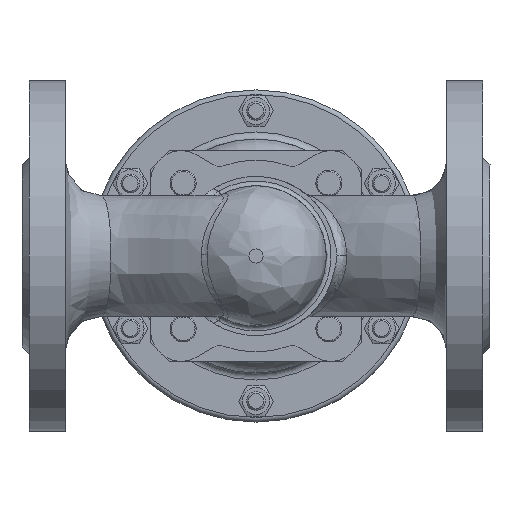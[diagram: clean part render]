
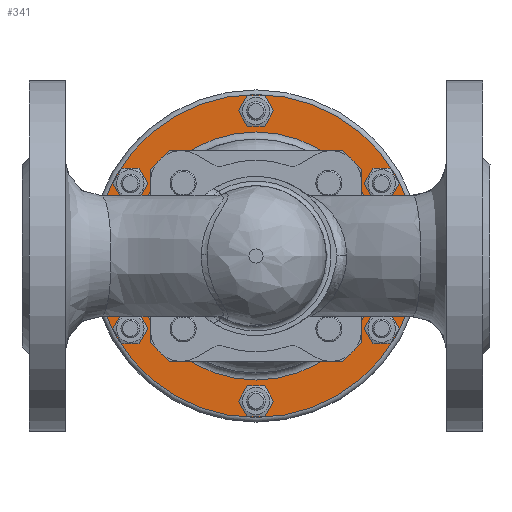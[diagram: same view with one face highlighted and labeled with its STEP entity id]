
A CAD part, front view. The second image highlights one B-rep face of the part: STEP entity #341.
In plain terms, the highlighted planar face has unit normal (0, -1, 0).
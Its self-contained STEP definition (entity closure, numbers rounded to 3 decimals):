
#341=ADVANCED_FACE('',(#11188,#11190,#11192,#11194,#11196,#11198,#11200,#11202),
#11204,.T.);
#11188=FACE_BOUND('',#11189,.T.);
#11189=EDGE_LOOP('',(#22740));
#11190=FACE_BOUND('',#11191,.T.);
#11191=EDGE_LOOP('',(#22741));
#11192=FACE_BOUND('',#11193,.T.);
#11193=EDGE_LOOP('',(#22742));
#11194=FACE_BOUND('',#11195,.T.);
#11195=EDGE_LOOP('',(#22743,#22744,#22745,#22746,#22747,#22748,#22749,#22750));
#11196=FACE_BOUND('',#11197,.T.);
#11197=EDGE_LOOP('',(#22751));
#11198=FACE_BOUND('',#11199,.T.);
#11199=EDGE_LOOP('',(#22752));
#11200=FACE_BOUND('',#11201,.T.);
#11201=EDGE_LOOP('',(#22753));
#11202=FACE_OUTER_BOUND('',#11203,.T.);
#11203=EDGE_LOOP('',(#22754));
#11204=PLANE('',#11205);
#11205=AXIS2_PLACEMENT_3D('',#11206,#11207,#11208);
#11206=CARTESIAN_POINT('',(100.,237.062,-75.));
#11207=DIRECTION('',(0.,-1.,0.));
#11208=DIRECTION('',(1.,0.,0.));
#22740=ORIENTED_EDGE('',*,*,#26839,.F.);
#22741=ORIENTED_EDGE('',*,*,#26840,.F.);
#22742=ORIENTED_EDGE('',*,*,#26841,.F.);
#22743=ORIENTED_EDGE('',*,*,#26842,.T.);
#22744=ORIENTED_EDGE('',*,*,#26843,.F.);
#22745=ORIENTED_EDGE('',*,*,#26844,.F.);
#22746=ORIENTED_EDGE('',*,*,#26845,.F.);
#22747=ORIENTED_EDGE('',*,*,#26846,.T.);
#22748=ORIENTED_EDGE('',*,*,#26847,.F.);
#22749=ORIENTED_EDGE('',*,*,#26848,.F.);
#22750=ORIENTED_EDGE('',*,*,#26849,.F.);
#22751=ORIENTED_EDGE('',*,*,#26850,.F.);
#22752=ORIENTED_EDGE('',*,*,#26851,.F.);
#22753=ORIENTED_EDGE('',*,*,#26852,.F.);
#22754=ORIENTED_EDGE('',*,*,#26833,.F.);
#26833=EDGE_CURVE('',#28653,#28653,#28655,.T.);
#26839=EDGE_CURVE('',#28664,#28664,#28665,.T.);
#26840=EDGE_CURVE('',#28666,#28666,#28667,.T.);
#26841=EDGE_CURVE('',#28668,#28668,#28669,.T.);
#26842=EDGE_CURVE('',#28670,#28671,#28672,.T.);
#26843=EDGE_CURVE('',#28673,#28671,#28674,.T.);
#26844=EDGE_CURVE('',#28675,#28673,#28676,.T.);
#26845=EDGE_CURVE('',#28677,#28675,#28678,.T.);
#26846=EDGE_CURVE('',#28677,#28679,#28680,.T.);
#26847=EDGE_CURVE('',#28681,#28679,#28682,.T.);
#26848=EDGE_CURVE('',#28683,#28681,#28684,.T.);
#26849=EDGE_CURVE('',#28670,#28683,#28685,.T.);
#26850=EDGE_CURVE('',#28686,#28686,#28687,.T.);
#26851=EDGE_CURVE('',#28688,#28688,#28689,.T.);
#26852=EDGE_CURVE('',#28690,#28690,#28691,.T.);
#28653=VERTEX_POINT('',#38046);
#28655=CIRCLE('',#38051,69.);
#28664=VERTEX_POINT('',#38077);
#28665=CIRCLE('',#38078,5.85);
#28666=VERTEX_POINT('',#38082);
#28667=CIRCLE('',#38083,5.85);
#28668=VERTEX_POINT('',#38087);
#28669=CIRCLE('',#38088,5.85);
#28670=VERTEX_POINT('',#38092);
#28671=VERTEX_POINT('',#38093);
#28672=CIRCLE('',#38094,53.);
#28673=VERTEX_POINT('',#38098);
#28674=LINE('',#38099,#38100);
#28675=VERTEX_POINT('',#38102);
#28676=CIRCLE('',#38103,3.5);
#28677=VERTEX_POINT('',#38107);
#28678=LINE('',#38108,#38109);
#28679=VERTEX_POINT('',#38111);
#28680=CIRCLE('',#38112,53.);
#28681=VERTEX_POINT('',#38116);
#28682=LINE('',#38117,#38118);
#28683=VERTEX_POINT('',#38120);
#28684=CIRCLE('',#38121,3.5);
#28685=LINE('',#38125,#38126);
#28686=VERTEX_POINT('',#38128);
#28687=CIRCLE('',#38129,5.85);
#28688=VERTEX_POINT('',#38133);
#28689=CIRCLE('',#38134,5.85);
#28690=VERTEX_POINT('',#38138);
#28691=CIRCLE('',#38139,5.85);
#38046=CARTESIAN_POINT('',(31.,237.062,-75.));
#38051=AXIS2_PLACEMENT_3D('',#38052,#38053,#38054);
#38052=CARTESIAN_POINT('',(100.,237.062,-75.));
#38053=DIRECTION('',(0.,1.,0.));
#38054=DIRECTION('',(1.,0.,0.));
#38077=CARTESIAN_POINT('',(49.231,237.062,-111.066));
#38078=AXIS2_PLACEMENT_3D('',#38079,#38080,#38081);
#38079=CARTESIAN_POINT('',(46.306,237.062,-106.));
#38080=DIRECTION('',(0.,-1.,0.));
#38081=DIRECTION('',(1.,0.,0.));
#38082=CARTESIAN_POINT('',(102.925,237.062,-18.066));
#38083=AXIS2_PLACEMENT_3D('',#38084,#38085,#38086);
#38084=CARTESIAN_POINT('',(100.,237.062,-13.));
#38085=DIRECTION('',(0.,-1.,0.));
#38086=DIRECTION('',(1.,0.,0.));
#38087=CARTESIAN_POINT('',(156.619,237.062,-111.066));
#38088=AXIS2_PLACEMENT_3D('',#38089,#38090,#38091);
#38089=CARTESIAN_POINT('',(153.694,237.062,-106.));
#38090=DIRECTION('',(0.,-1.,0.));
#38091=DIRECTION('',(1.,0.,0.));
#38092=CARTESIAN_POINT('',(47.116,237.062,-71.5));
#38093=CARTESIAN_POINT('',(152.884,237.062,-71.5));
#38094=AXIS2_PLACEMENT_3D('',#38095,#38096,#38097);
#38095=CARTESIAN_POINT('',(100.,237.062,-75.));
#38096=DIRECTION('',(0.,1.,0.));
#38097=DIRECTION('',(-0.998,0.,0.066));
#38098=CARTESIAN_POINT('',(159.5,237.062,-71.5));
#38099=CARTESIAN_POINT('',(159.5,237.062,-71.5));
#38100=VECTOR('',#38101,1.);
#38101=DIRECTION('',(-1.,0.,0.));
#38102=CARTESIAN_POINT('',(159.5,237.062,-78.5));
#38103=AXIS2_PLACEMENT_3D('',#38104,#38105,#38106);
#38104=CARTESIAN_POINT('',(159.5,237.062,-75.));
#38105=DIRECTION('',(0.,-1.,0.));
#38106=DIRECTION('',(0.,0.,-1.));
#38107=CARTESIAN_POINT('',(152.884,237.062,-78.5));
#38108=CARTESIAN_POINT('',(152.884,237.062,-78.5));
#38109=VECTOR('',#38110,1.);
#38110=DIRECTION('',(1.,0.,0.));
#38111=CARTESIAN_POINT('',(47.116,237.062,-78.5));
#38112=AXIS2_PLACEMENT_3D('',#38113,#38114,#38115);
#38113=CARTESIAN_POINT('',(100.,237.062,-75.));
#38114=DIRECTION('',(0.,1.,0.));
#38115=DIRECTION('',(0.998,0.,-0.066));
#38116=CARTESIAN_POINT('',(40.5,237.062,-78.5));
#38117=CARTESIAN_POINT('',(40.5,237.062,-78.5));
#38118=VECTOR('',#38119,1.);
#38119=DIRECTION('',(1.,0.,0.));
#38120=CARTESIAN_POINT('',(40.5,237.062,-71.5));
#38121=AXIS2_PLACEMENT_3D('',#38122,#38123,#38124);
#38122=CARTESIAN_POINT('',(40.5,237.062,-75.));
#38123=DIRECTION('',(0.,-1.,0.));
#38124=DIRECTION('',(0.,0.,1.));
#38125=CARTESIAN_POINT('',(47.116,237.062,-71.5));
#38126=VECTOR('',#38127,1.);
#38127=DIRECTION('',(-1.,0.,0.));
#38128=CARTESIAN_POINT('',(156.619,237.062,-49.066));
#38129=AXIS2_PLACEMENT_3D('',#38130,#38131,#38132);
#38130=CARTESIAN_POINT('',(153.694,237.062,-44.));
#38131=DIRECTION('',(0.,-1.,0.));
#38132=DIRECTION('',(1.,0.,0.));
#38133=CARTESIAN_POINT('',(49.231,237.062,-49.066));
#38134=AXIS2_PLACEMENT_3D('',#38135,#38136,#38137);
#38135=CARTESIAN_POINT('',(46.306,237.062,-44.));
#38136=DIRECTION('',(0.,-1.,0.));
#38137=DIRECTION('',(1.,0.,0.));
#38138=CARTESIAN_POINT('',(102.925,237.062,-142.066));
#38139=AXIS2_PLACEMENT_3D('',#38140,#38141,#38142);
#38140=CARTESIAN_POINT('',(100.,237.062,-137.));
#38141=DIRECTION('',(0.,-1.,0.));
#38142=DIRECTION('',(1.,0.,0.));
